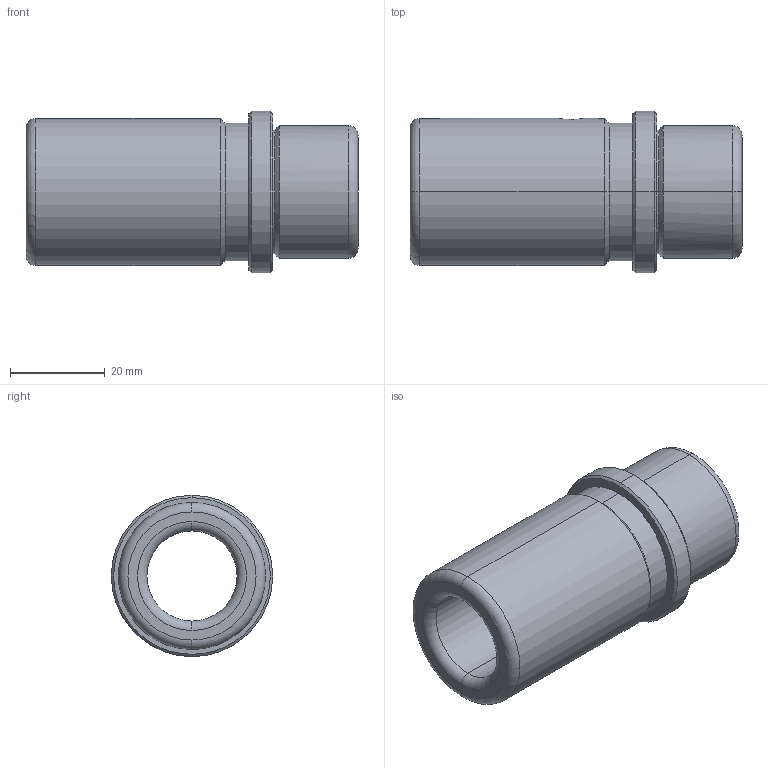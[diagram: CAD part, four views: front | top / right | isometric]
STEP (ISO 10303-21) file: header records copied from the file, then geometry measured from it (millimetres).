
FILE_DESCRIPTION(('CATIA V5 STEP Exchange'),'2;1');
FILE_NAME('C:\Users\Utente\Desktop\IO LAVORO\3D X SITO CF\X SITO\CF 655\CF 655 19 x 70.stp','2020-12-26T14:14:02+00:00',('none'),('none'),'CATIA Version 5 Release 20 GA (IN-10)','CATIA V5 STEP AP203','none');
FILE_SCHEMA(('CONFIG_CONTROL_DESIGN'));
Length unit declared in the file: millimetre
Products named in the file (1): CF 655 19 x 70
Bounding box: 70 x 34 x 34 mm (x, y, z)
Volume: 30082.6 mm3; surface area: 12185.9 mm2
Topology: 1 solids, 1 shells, 37 faces, 117 edges, 85 vertices
Faces by surface type: cylinder 14, cone 10, torus 8, plane 5
Entity records: 1530 total; most frequent: CARTESIAN_POINT 447, ORIENTED_EDGE 234, DIRECTION 178, AXIS2_PLACEMENT_3D 118, EDGE_CURVE 117, VERTEX_POINT 85, CIRCLE 80, EDGE_LOOP 44
